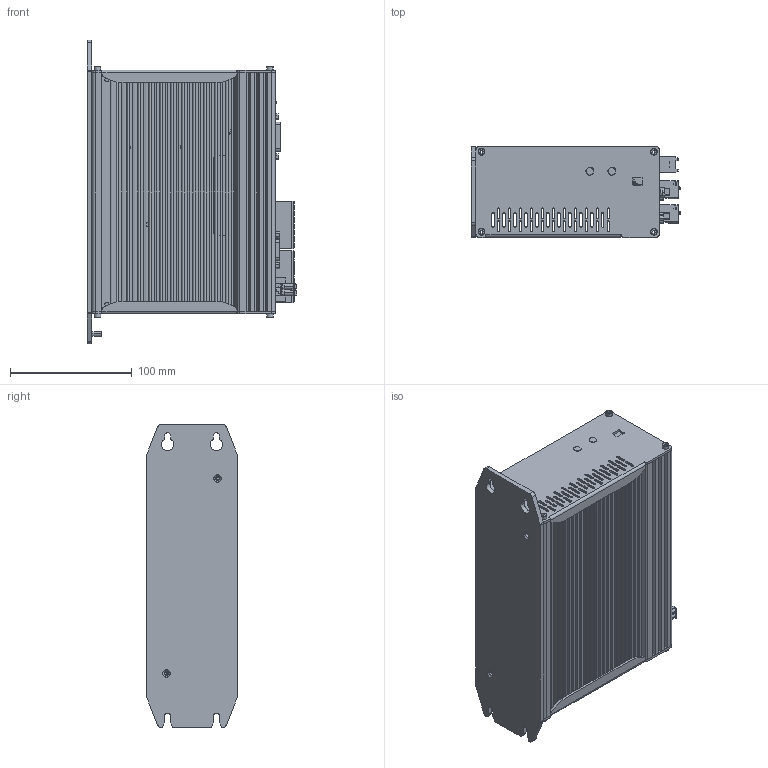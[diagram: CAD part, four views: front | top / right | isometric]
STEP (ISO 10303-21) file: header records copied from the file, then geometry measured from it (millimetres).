
FILE_DESCRIPTION (( 'STEP AP214' ), '1' );
FILE_NAME ('NP-6111.STEP', '2023-05-23T01:10:43', ( 'DHB' ), ( 'Microsoft' ), 'SwSTEP 2.0', 'SolidWorks 2016', '' );
FILE_SCHEMA (( 'AUTOMOTIVE_DESIGN' ));
Length unit declared in the file: millimetre
Products named in the file (1): NP-6111
Bounding box: 172.15 x 74.6 x 249 mm (x, y, z)
Surface area: 457066.9 mm2 (no closed solid volume)
Topology: 0 solids, 110 shells, 2274 faces, 9072 edges, 6658 vertices
Faces by surface type: plane 1529, cylinder 657, bspline 41, cone 30, torus 17
Entity records: 120513 total; most frequent: CARTESIAN_POINT 20600, DIRECTION 15024, ORIENTED_EDGE 13818, EDGE_CURVE 9024, LINE 6794, VECTOR 6794, VERTEX_POINT 6658, AXIS2_PLACEMENT_3D 4115
